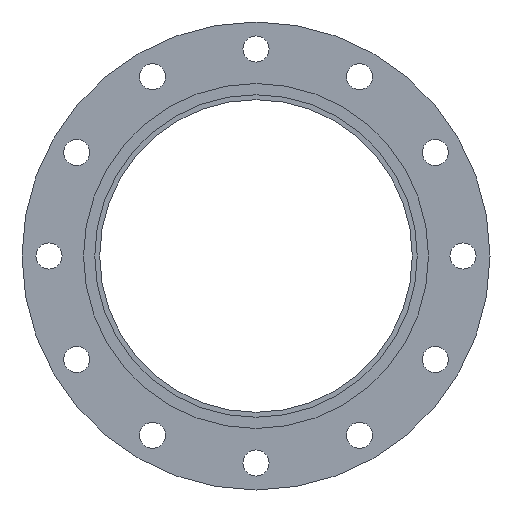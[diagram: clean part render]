
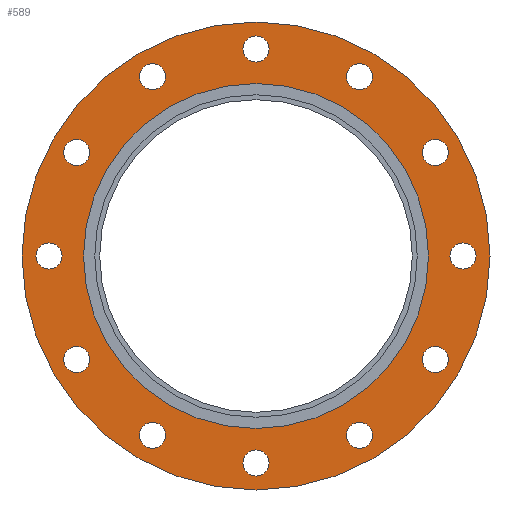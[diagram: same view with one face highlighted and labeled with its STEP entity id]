
A CAD part, left-side view. The second image highlights one B-rep face of the part: STEP entity #589.
In plain terms, the highlighted planar face has unit normal (-1, 0, 0).
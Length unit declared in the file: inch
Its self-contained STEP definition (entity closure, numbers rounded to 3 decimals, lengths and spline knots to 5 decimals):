
#49=FACE_BOUND('',#135,.T.);
#50=FACE_BOUND('',#136,.T.);
#51=FACE_BOUND('',#137,.T.);
#52=FACE_BOUND('',#138,.T.);
#53=FACE_BOUND('',#139,.T.);
#54=FACE_BOUND('',#140,.T.);
#55=FACE_BOUND('',#141,.T.);
#56=FACE_BOUND('',#142,.T.);
#57=FACE_BOUND('',#143,.T.);
#58=FACE_BOUND('',#144,.T.);
#59=FACE_BOUND('',#145,.T.);
#60=FACE_BOUND('',#146,.T.);
#61=FACE_BOUND('',#147,.T.);
#80=PLANE('',#679);
#104=FACE_OUTER_BOUND('',#134,.T.);
#134=EDGE_LOOP('',(#473,#474));
#135=EDGE_LOOP('',(#475));
#136=EDGE_LOOP('',(#476));
#137=EDGE_LOOP('',(#477));
#138=EDGE_LOOP('',(#478));
#139=EDGE_LOOP('',(#479));
#140=EDGE_LOOP('',(#480));
#141=EDGE_LOOP('',(#481));
#142=EDGE_LOOP('',(#482));
#143=EDGE_LOOP('',(#483));
#144=EDGE_LOOP('',(#484));
#145=EDGE_LOOP('',(#485));
#146=EDGE_LOOP('',(#486));
#147=EDGE_LOOP('',(#487,#488));
#205=CIRCLE('',#616,0.435);
#207=CIRCLE('',#619,0.435);
#209=CIRCLE('',#622,0.435);
#211=CIRCLE('',#625,0.435);
#213=CIRCLE('',#628,0.435);
#215=CIRCLE('',#631,0.435);
#217=CIRCLE('',#634,0.435);
#219=CIRCLE('',#637,0.435);
#221=CIRCLE('',#640,0.435);
#223=CIRCLE('',#643,0.435);
#225=CIRCLE('',#646,0.435);
#227=CIRCLE('',#649,0.435);
#246=CIRCLE('',#677,5.75);
#247=CIRCLE('',#678,5.75);
#248=CIRCLE('',#680,7.8);
#249=CIRCLE('',#681,7.8);
#257=VERTEX_POINT('',#912);
#259=VERTEX_POINT('',#918);
#261=VERTEX_POINT('',#924);
#263=VERTEX_POINT('',#930);
#265=VERTEX_POINT('',#936);
#267=VERTEX_POINT('',#942);
#269=VERTEX_POINT('',#948);
#271=VERTEX_POINT('',#954);
#273=VERTEX_POINT('',#960);
#275=VERTEX_POINT('',#966);
#277=VERTEX_POINT('',#972);
#279=VERTEX_POINT('',#978);
#298=VERTEX_POINT('',#1030);
#299=VERTEX_POINT('',#1031);
#300=VERTEX_POINT('',#1036);
#301=VERTEX_POINT('',#1037);
#310=EDGE_CURVE('',#257,#257,#205,.T.);
#313=EDGE_CURVE('',#259,#259,#207,.T.);
#316=EDGE_CURVE('',#261,#261,#209,.T.);
#319=EDGE_CURVE('',#263,#263,#211,.T.);
#322=EDGE_CURVE('',#265,#265,#213,.T.);
#325=EDGE_CURVE('',#267,#267,#215,.T.);
#328=EDGE_CURVE('',#269,#269,#217,.T.);
#331=EDGE_CURVE('',#271,#271,#219,.T.);
#334=EDGE_CURVE('',#273,#273,#221,.T.);
#337=EDGE_CURVE('',#275,#275,#223,.T.);
#340=EDGE_CURVE('',#277,#277,#225,.T.);
#343=EDGE_CURVE('',#279,#279,#227,.T.);
#366=EDGE_CURVE('',#298,#299,#246,.T.);
#367=EDGE_CURVE('',#299,#298,#247,.T.);
#369=EDGE_CURVE('',#300,#301,#248,.T.);
#370=EDGE_CURVE('',#301,#300,#249,.T.);
#473=ORIENTED_EDGE('',*,*,#369,.F.);
#474=ORIENTED_EDGE('',*,*,#370,.F.);
#475=ORIENTED_EDGE('',*,*,#310,.T.);
#476=ORIENTED_EDGE('',*,*,#313,.T.);
#477=ORIENTED_EDGE('',*,*,#316,.T.);
#478=ORIENTED_EDGE('',*,*,#319,.T.);
#479=ORIENTED_EDGE('',*,*,#322,.T.);
#480=ORIENTED_EDGE('',*,*,#325,.T.);
#481=ORIENTED_EDGE('',*,*,#328,.T.);
#482=ORIENTED_EDGE('',*,*,#331,.T.);
#483=ORIENTED_EDGE('',*,*,#334,.T.);
#484=ORIENTED_EDGE('',*,*,#337,.T.);
#485=ORIENTED_EDGE('',*,*,#340,.T.);
#486=ORIENTED_EDGE('',*,*,#343,.T.);
#487=ORIENTED_EDGE('',*,*,#366,.T.);
#488=ORIENTED_EDGE('',*,*,#367,.T.);
#589=ADVANCED_FACE('',(#104,#49,#50,#51,#52,#53,#54,#55,#56,#57,#58,#59,
#60,#61),#80,.T.);
#616=AXIS2_PLACEMENT_3D('',#914,#712,#713);
#619=AXIS2_PLACEMENT_3D('',#920,#719,#720);
#622=AXIS2_PLACEMENT_3D('',#926,#726,#727);
#625=AXIS2_PLACEMENT_3D('',#932,#733,#734);
#628=AXIS2_PLACEMENT_3D('',#938,#740,#741);
#631=AXIS2_PLACEMENT_3D('',#944,#747,#748);
#634=AXIS2_PLACEMENT_3D('',#950,#754,#755);
#637=AXIS2_PLACEMENT_3D('',#956,#761,#762);
#640=AXIS2_PLACEMENT_3D('',#962,#768,#769);
#643=AXIS2_PLACEMENT_3D('',#968,#775,#776);
#646=AXIS2_PLACEMENT_3D('',#974,#782,#783);
#649=AXIS2_PLACEMENT_3D('',#980,#789,#790);
#677=AXIS2_PLACEMENT_3D('',#1032,#849,#850);
#678=AXIS2_PLACEMENT_3D('',#1033,#851,#852);
#679=AXIS2_PLACEMENT_3D('',#1035,#854,#855);
#680=AXIS2_PLACEMENT_3D('',#1038,#856,#857);
#681=AXIS2_PLACEMENT_3D('',#1039,#858,#859);
#712=DIRECTION('center_axis',(1.,0.,0.));
#713=DIRECTION('ref_axis',(0.,0.5,0.866));
#719=DIRECTION('center_axis',(1.,0.,0.));
#720=DIRECTION('ref_axis',(0.,0.866,0.5));
#726=DIRECTION('center_axis',(1.,0.,0.));
#727=DIRECTION('ref_axis',(0.,1.,0.));
#733=DIRECTION('center_axis',(1.,0.,0.));
#734=DIRECTION('ref_axis',(0.,0.866,-0.5));
#740=DIRECTION('center_axis',(1.,0.,0.));
#741=DIRECTION('ref_axis',(0.,0.5,-0.866));
#747=DIRECTION('center_axis',(1.,0.,0.));
#748=DIRECTION('ref_axis',(0.,0.,-1.));
#754=DIRECTION('center_axis',(1.,0.,0.));
#755=DIRECTION('ref_axis',(0.,-0.5,-0.866));
#761=DIRECTION('center_axis',(1.,0.,0.));
#762=DIRECTION('ref_axis',(0.,-0.866,-0.5));
#768=DIRECTION('center_axis',(1.,0.,0.));
#769=DIRECTION('ref_axis',(0.,-1.,0.));
#775=DIRECTION('center_axis',(1.,0.,0.));
#776=DIRECTION('ref_axis',(0.,-0.866,0.5));
#782=DIRECTION('center_axis',(1.,0.,0.));
#783=DIRECTION('ref_axis',(0.,-0.5,0.866));
#789=DIRECTION('center_axis',(1.,0.,0.));
#790=DIRECTION('ref_axis',(0.,0.,1.));
#849=DIRECTION('center_axis',(1.,0.,0.));
#850=DIRECTION('ref_axis',(0.,0.,-1.));
#851=DIRECTION('center_axis',(1.,0.,0.));
#852=DIRECTION('ref_axis',(0.,0.,-1.));
#854=DIRECTION('center_axis',(-1.,0.,0.));
#855=DIRECTION('ref_axis',(0.,0.,1.));
#856=DIRECTION('center_axis',(1.,0.,0.));
#857=DIRECTION('ref_axis',(0.,0.,-1.));
#858=DIRECTION('center_axis',(1.,0.,0.));
#859=DIRECTION('ref_axis',(0.,0.,-1.));
#912=CARTESIAN_POINT('',(-1.02,5.75808,-3.82672));
#914=CARTESIAN_POINT('Origin',(-1.02,5.97558,-3.45));
#918=CARTESIAN_POINT('',(-1.02,3.07328,-6.19308));
#920=CARTESIAN_POINT('Origin',(-1.02,3.45,-5.97558));
#924=CARTESIAN_POINT('',(-1.02,-0.435,-6.9));
#926=CARTESIAN_POINT('Origin',(-1.02,0.,-6.9));
#930=CARTESIAN_POINT('',(-1.02,-3.82672,-5.75808));
#932=CARTESIAN_POINT('Origin',(-1.02,-3.45,-5.97558));
#936=CARTESIAN_POINT('',(-1.02,-6.19308,-3.07328));
#938=CARTESIAN_POINT('Origin',(-1.02,-5.97558,-3.45));
#942=CARTESIAN_POINT('',(-1.02,-6.9,0.435));
#944=CARTESIAN_POINT('Origin',(-1.02,-6.9,0.));
#948=CARTESIAN_POINT('',(-1.02,-5.75808,3.82672));
#950=CARTESIAN_POINT('Origin',(-1.02,-5.97558,3.45));
#954=CARTESIAN_POINT('',(-1.02,-3.07328,6.19308));
#956=CARTESIAN_POINT('Origin',(-1.02,-3.45,5.97558));
#960=CARTESIAN_POINT('',(-1.02,0.435,6.9));
#962=CARTESIAN_POINT('Origin',(-1.02,0.,6.9));
#966=CARTESIAN_POINT('',(-1.02,3.82672,5.75808));
#968=CARTESIAN_POINT('Origin',(-1.02,3.45,5.97558));
#972=CARTESIAN_POINT('',(-1.02,6.19308,3.07328));
#974=CARTESIAN_POINT('Origin',(-1.02,5.97558,3.45));
#978=CARTESIAN_POINT('',(-1.02,6.9,-0.435));
#980=CARTESIAN_POINT('Origin',(-1.02,6.9,0.));
#1030=CARTESIAN_POINT('',(-1.02,5.75,0.));
#1031=CARTESIAN_POINT('',(-1.02,-5.75,0.));
#1032=CARTESIAN_POINT('Origin',(-1.02,0.,0.));
#1033=CARTESIAN_POINT('Origin',(-1.02,0.,0.));
#1035=CARTESIAN_POINT('Origin',(-1.02,7.8,0.));
#1036=CARTESIAN_POINT('',(-1.02,7.8,0.));
#1037=CARTESIAN_POINT('',(-1.02,-7.8,0.));
#1038=CARTESIAN_POINT('Origin',(-1.02,0.,0.));
#1039=CARTESIAN_POINT('Origin',(-1.02,0.,0.));
